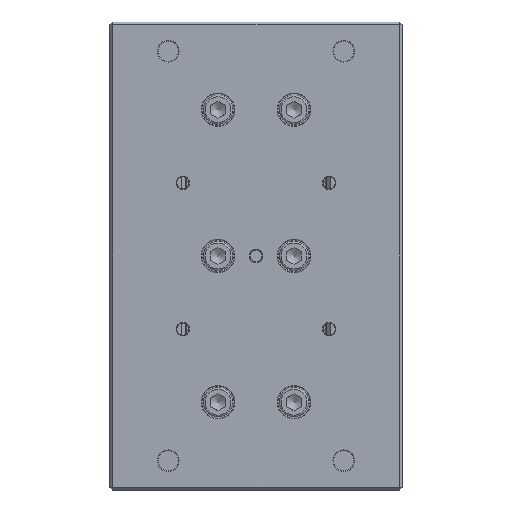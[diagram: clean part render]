
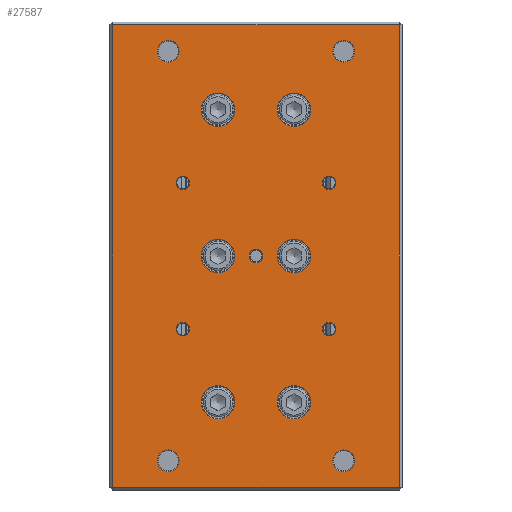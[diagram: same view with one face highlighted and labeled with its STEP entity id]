
A CAD part, front view. The second image highlights one B-rep face of the part: STEP entity #27587.
In plain terms, the highlighted planar face has unit normal (0, -1, 0).
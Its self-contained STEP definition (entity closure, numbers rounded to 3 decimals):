
#918=FACE_BOUND('',#4229,.T.);
#919=FACE_BOUND('',#4230,.T.);
#920=FACE_BOUND('',#4231,.T.);
#921=FACE_BOUND('',#4232,.T.);
#922=FACE_BOUND('',#4233,.T.);
#923=FACE_BOUND('',#4234,.T.);
#924=FACE_BOUND('',#4235,.T.);
#925=FACE_BOUND('',#4236,.T.);
#926=FACE_BOUND('',#4237,.T.);
#927=FACE_BOUND('',#4238,.T.);
#928=FACE_BOUND('',#4239,.T.);
#929=FACE_BOUND('',#4240,.T.);
#930=FACE_BOUND('',#4241,.T.);
#931=FACE_BOUND('',#4242,.T.);
#932=FACE_BOUND('',#4243,.T.);
#1379=PLANE('',#29298);
#2656=FACE_OUTER_BOUND('',#4228,.T.);
#4228=EDGE_LOOP('',(#20493,#20494,#20495,#20496));
#4229=EDGE_LOOP('',(#20497));
#4230=EDGE_LOOP('',(#20498));
#4231=EDGE_LOOP('',(#20499));
#4232=EDGE_LOOP('',(#20500));
#4233=EDGE_LOOP('',(#20501));
#4234=EDGE_LOOP('',(#20502));
#4235=EDGE_LOOP('',(#20503));
#4236=EDGE_LOOP('',(#20504));
#4237=EDGE_LOOP('',(#20505));
#4238=EDGE_LOOP('',(#20506));
#4239=EDGE_LOOP('',(#20507));
#4240=EDGE_LOOP('',(#20508));
#4241=EDGE_LOOP('',(#20509));
#4242=EDGE_LOOP('',(#20510));
#4243=EDGE_LOOP('',(#20511));
#6263=LINE('',#41393,#8931);
#6265=LINE('',#41396,#8933);
#6278=LINE('',#41421,#8946);
#6280=LINE('',#41425,#8948);
#8931=VECTOR('',#32750,10.);
#8933=VECTOR('',#32754,10.);
#8946=VECTOR('',#32783,10.);
#8948=VECTOR('',#32789,10.);
#10891=CIRCLE('',#29299,3.7);
#10892=CIRCLE('',#29300,3.7);
#10893=CIRCLE('',#29301,2.267);
#10894=CIRCLE('',#29302,2.267);
#10895=CIRCLE('',#29303,5.7);
#10896=CIRCLE('',#29304,5.7);
#10897=CIRCLE('',#29305,5.7);
#10898=CIRCLE('',#29306,2.267);
#10899=CIRCLE('',#29307,5.7);
#10900=CIRCLE('',#29308,5.7);
#10901=CIRCLE('',#29309,5.7);
#10902=CIRCLE('',#29310,2.267);
#10903=CIRCLE('',#29311,2.267);
#10904=CIRCLE('',#29312,3.7);
#10905=CIRCLE('',#29313,3.7);
#12239=VERTEX_POINT('',#41369);
#12241=VERTEX_POINT('',#41375);
#12244=VERTEX_POINT('',#41383);
#12246=VERTEX_POINT('',#41389);
#12255=VERTEX_POINT('',#41446);
#12256=VERTEX_POINT('',#41448);
#12257=VERTEX_POINT('',#41450);
#12258=VERTEX_POINT('',#41452);
#12259=VERTEX_POINT('',#41454);
#12260=VERTEX_POINT('',#41456);
#12261=VERTEX_POINT('',#41458);
#12262=VERTEX_POINT('',#41460);
#12263=VERTEX_POINT('',#41462);
#12264=VERTEX_POINT('',#41464);
#12265=VERTEX_POINT('',#41466);
#12266=VERTEX_POINT('',#41468);
#12267=VERTEX_POINT('',#41470);
#12268=VERTEX_POINT('',#41472);
#12269=VERTEX_POINT('',#41474);
#15257=EDGE_CURVE('',#12241,#12246,#6263,.T.);
#15259=EDGE_CURVE('',#12246,#12244,#6265,.T.);
#15272=EDGE_CURVE('',#12244,#12239,#6278,.T.);
#15274=EDGE_CURVE('',#12239,#12241,#6280,.T.);
#15285=EDGE_CURVE('',#12255,#12255,#10891,.T.);
#15286=EDGE_CURVE('',#12256,#12256,#10892,.T.);
#15287=EDGE_CURVE('',#12257,#12257,#10893,.T.);
#15288=EDGE_CURVE('',#12258,#12258,#10894,.T.);
#15289=EDGE_CURVE('',#12259,#12259,#10895,.T.);
#15290=EDGE_CURVE('',#12260,#12260,#10896,.T.);
#15291=EDGE_CURVE('',#12261,#12261,#10897,.T.);
#15292=EDGE_CURVE('',#12262,#12262,#10898,.T.);
#15293=EDGE_CURVE('',#12263,#12263,#10899,.T.);
#15294=EDGE_CURVE('',#12264,#12264,#10900,.T.);
#15295=EDGE_CURVE('',#12265,#12265,#10901,.T.);
#15296=EDGE_CURVE('',#12266,#12266,#10902,.T.);
#15297=EDGE_CURVE('',#12267,#12267,#10903,.T.);
#15298=EDGE_CURVE('',#12268,#12268,#10904,.T.);
#15299=EDGE_CURVE('',#12269,#12269,#10905,.T.);
#20493=ORIENTED_EDGE('',*,*,#15257,.F.);
#20494=ORIENTED_EDGE('',*,*,#15274,.F.);
#20495=ORIENTED_EDGE('',*,*,#15272,.F.);
#20496=ORIENTED_EDGE('',*,*,#15259,.F.);
#20497=ORIENTED_EDGE('',*,*,#15285,.F.);
#20498=ORIENTED_EDGE('',*,*,#15286,.F.);
#20499=ORIENTED_EDGE('',*,*,#15287,.F.);
#20500=ORIENTED_EDGE('',*,*,#15288,.F.);
#20501=ORIENTED_EDGE('',*,*,#15289,.F.);
#20502=ORIENTED_EDGE('',*,*,#15290,.F.);
#20503=ORIENTED_EDGE('',*,*,#15291,.F.);
#20504=ORIENTED_EDGE('',*,*,#15292,.F.);
#20505=ORIENTED_EDGE('',*,*,#15293,.F.);
#20506=ORIENTED_EDGE('',*,*,#15294,.F.);
#20507=ORIENTED_EDGE('',*,*,#15295,.F.);
#20508=ORIENTED_EDGE('',*,*,#15296,.F.);
#20509=ORIENTED_EDGE('',*,*,#15297,.F.);
#20510=ORIENTED_EDGE('',*,*,#15298,.F.);
#20511=ORIENTED_EDGE('',*,*,#15299,.F.);
#27587=ADVANCED_FACE('',(#2656,#918,#919,#920,#921,#922,#923,#924,#925,
#926,#927,#928,#929,#930,#931,#932),#1379,.T.);
#29298=AXIS2_PLACEMENT_3D('',#41445,#32814,#32815);
#29299=AXIS2_PLACEMENT_3D('',#41447,#32816,#32817);
#29300=AXIS2_PLACEMENT_3D('',#41449,#32818,#32819);
#29301=AXIS2_PLACEMENT_3D('',#41451,#32820,#32821);
#29302=AXIS2_PLACEMENT_3D('',#41453,#32822,#32823);
#29303=AXIS2_PLACEMENT_3D('',#41455,#32824,#32825);
#29304=AXIS2_PLACEMENT_3D('',#41457,#32826,#32827);
#29305=AXIS2_PLACEMENT_3D('',#41459,#32828,#32829);
#29306=AXIS2_PLACEMENT_3D('',#41461,#32830,#32831);
#29307=AXIS2_PLACEMENT_3D('',#41463,#32832,#32833);
#29308=AXIS2_PLACEMENT_3D('',#41465,#32834,#32835);
#29309=AXIS2_PLACEMENT_3D('',#41467,#32836,#32837);
#29310=AXIS2_PLACEMENT_3D('',#41469,#32838,#32839);
#29311=AXIS2_PLACEMENT_3D('',#41471,#32840,#32841);
#29312=AXIS2_PLACEMENT_3D('',#41473,#32842,#32843);
#29313=AXIS2_PLACEMENT_3D('',#41475,#32844,#32845);
#32750=DIRECTION('',(-1.,0.,0.));
#32754=DIRECTION('',(0.,0.,1.));
#32783=DIRECTION('',(1.,0.,0.));
#32789=DIRECTION('',(0.,0.,-1.));
#32814=DIRECTION('center_axis',(0.,-1.,0.));
#32815=DIRECTION('ref_axis',(1.,0.,0.));
#32816=DIRECTION('center_axis',(0.,-1.,0.));
#32817=DIRECTION('ref_axis',(1.,0.,0.));
#32818=DIRECTION('center_axis',(0.,-1.,0.));
#32819=DIRECTION('ref_axis',(1.,0.,0.));
#32820=DIRECTION('center_axis',(0.,-1.,0.));
#32821=DIRECTION('ref_axis',(-1.,0.,0.));
#32822=DIRECTION('center_axis',(0.,-1.,0.));
#32823=DIRECTION('ref_axis',(-1.,0.,0.));
#32824=DIRECTION('center_axis',(0.,-1.,0.));
#32825=DIRECTION('ref_axis',(-1.,0.,0.));
#32826=DIRECTION('center_axis',(0.,-1.,0.));
#32827=DIRECTION('ref_axis',(-1.,0.,0.));
#32828=DIRECTION('center_axis',(0.,-1.,0.));
#32829=DIRECTION('ref_axis',(-1.,0.,0.));
#32830=DIRECTION('center_axis',(0.,-1.,0.));
#32831=DIRECTION('ref_axis',(1.,0.,0.));
#32832=DIRECTION('center_axis',(0.,-1.,0.));
#32833=DIRECTION('ref_axis',(-1.,0.,0.));
#32834=DIRECTION('center_axis',(0.,-1.,0.));
#32835=DIRECTION('ref_axis',(-1.,0.,0.));
#32836=DIRECTION('center_axis',(0.,-1.,0.));
#32837=DIRECTION('ref_axis',(-1.,0.,0.));
#32838=DIRECTION('center_axis',(0.,-1.,0.));
#32839=DIRECTION('ref_axis',(-1.,0.,0.));
#32840=DIRECTION('center_axis',(0.,-1.,0.));
#32841=DIRECTION('ref_axis',(-1.,0.,0.));
#32842=DIRECTION('center_axis',(0.,-1.,0.));
#32843=DIRECTION('ref_axis',(1.,0.,0.));
#32844=DIRECTION('center_axis',(0.,-1.,0.));
#32845=DIRECTION('ref_axis',(1.,0.,0.));
#41369=CARTESIAN_POINT('',(19.869,55.583,-36.867));
#41375=CARTESIAN_POINT('',(19.869,55.583,-194.867));
#41383=CARTESIAN_POINT('',(-78.131,55.583,-36.867));
#41389=CARTESIAN_POINT('',(-78.131,55.583,-194.867));
#41393=CARTESIAN_POINT('',(-54.131,55.583,-194.867));
#41396=CARTESIAN_POINT('',(-78.131,55.583,-195.867));
#41421=CARTESIAN_POINT('',(-54.131,55.583,-36.867));
#41425=CARTESIAN_POINT('',(19.869,55.583,-195.867));
#41445=CARTESIAN_POINT('Origin',(-79.131,55.583,-195.867));
#41446=CARTESIAN_POINT('',(-62.831,55.583,-45.867));
#41447=CARTESIAN_POINT('Origin',(-59.131,55.583,-45.867));
#41448=CARTESIAN_POINT('',(-62.831,55.583,-185.867));
#41449=CARTESIAN_POINT('Origin',(-59.131,55.583,-185.867));
#41450=CARTESIAN_POINT('',(-51.864,55.583,-90.867));
#41451=CARTESIAN_POINT('Origin',(-54.131,55.583,-90.867));
#41452=CARTESIAN_POINT('',(-51.864,55.583,-140.867));
#41453=CARTESIAN_POINT('Origin',(-54.131,55.583,-140.867));
#41454=CARTESIAN_POINT('',(-10.431,55.583,-65.867));
#41455=CARTESIAN_POINT('Origin',(-16.131,55.583,-65.867));
#41456=CARTESIAN_POINT('',(-10.431,55.583,-115.867));
#41457=CARTESIAN_POINT('Origin',(-16.131,55.583,-115.867));
#41458=CARTESIAN_POINT('',(-10.431,55.583,-165.867));
#41459=CARTESIAN_POINT('Origin',(-16.131,55.583,-165.867));
#41460=CARTESIAN_POINT('',(-31.398,55.583,-115.867));
#41461=CARTESIAN_POINT('Origin',(-29.131,55.583,-115.867));
#41462=CARTESIAN_POINT('',(-36.431,55.583,-165.867));
#41463=CARTESIAN_POINT('Origin',(-42.131,55.583,-165.867));
#41464=CARTESIAN_POINT('',(-36.431,55.583,-115.867));
#41465=CARTESIAN_POINT('Origin',(-42.131,55.583,-115.867));
#41466=CARTESIAN_POINT('',(-36.431,55.583,-65.867));
#41467=CARTESIAN_POINT('Origin',(-42.131,55.583,-65.867));
#41468=CARTESIAN_POINT('',(-1.864,55.583,-140.867));
#41469=CARTESIAN_POINT('Origin',(-4.131,55.583,-140.867));
#41470=CARTESIAN_POINT('',(-1.864,55.583,-90.867));
#41471=CARTESIAN_POINT('Origin',(-4.131,55.583,-90.867));
#41472=CARTESIAN_POINT('',(-2.831,55.583,-185.867));
#41473=CARTESIAN_POINT('Origin',(0.869,55.583,-185.867));
#41474=CARTESIAN_POINT('',(-2.831,55.583,-45.867));
#41475=CARTESIAN_POINT('Origin',(0.869,55.583,-45.867));
